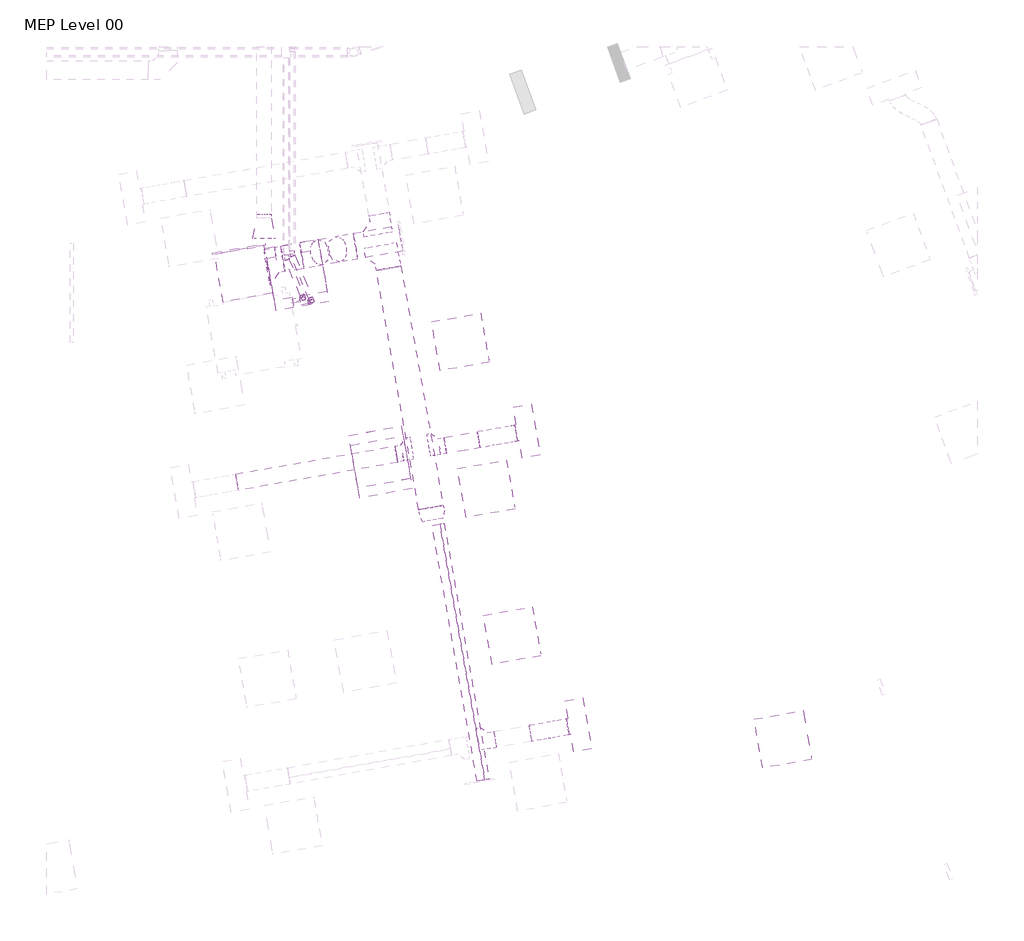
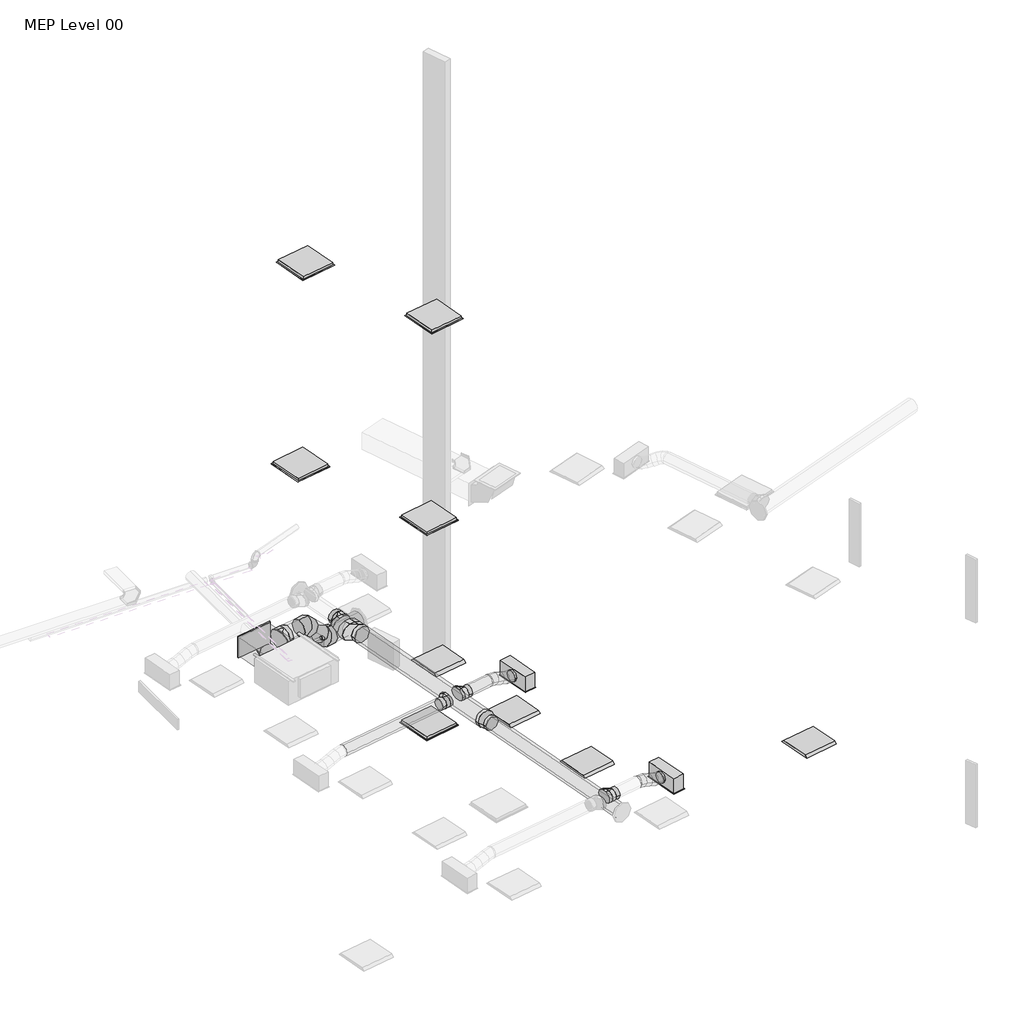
# One storey, part 18 of 33: 10 duct fittings, 10 duct segments, 9 air terminals, 6 pipe fittings, 6 pipe segments, 4 light fixtures.
"""IFC4 building model written with IfcOpenShell, lengths in millimetres."""

from ifc_helpers import new_model, si_unit, point, frame, frame_2d, origin, place, context, project, spatial, polyline, circle_curve, ellipse_curve, trimmed, segment, composite_curve, outline, extrude, transform, mapped, element, save
from ifc_brep_helpers import plane_surface, cylinder_surface, advanced_brep
from components import air_terminal_f10cd946, return_grille_rectangular_hosted_standard_7b12617c, supply_diffuser_with_plenum_linear_slot_hosted_8e4f2f20, dw144_rectangular_blank_end_standard_87489678, dw144_round_segmented_bend_slip_joint_standard_b708e37c, dw144_round_shoe_branch_slip_joint_standard_15a2edd8, dw144_round_shoe_branch_slip_joint_standard_3a899113, dw144_round_shoe_branch_slip_joint_standard_809a1802, dw144_round_shoe_branch_slip_joint_standard_2e838f3e, dw144_round_shoe_branch_slip_joint_standard_78bd87b2, dw144_round_taper_slip_joint_standard_7b2c0993, light_fixture_600x600_230_1c7c1157, elbow_threaded_gmi_standard_b4aa7741, elbow_threaded_gmi_standard_b1050e4a

model = new_model("IFC4")

# Units and contexts
model_context = context("Model", 3, world=origin())
ifc_project = project(units=[si_unit("LENGTHUNIT", "METRE", prefix="MILLI")], contexts=[model_context])

# Site, building, storey
site = spatial("IfcSite", under=ifc_project)
building = spatial("IfcBuilding", under=site)
storey = spatial("IfcBuildingStorey", under=building, Name="MEP Level 00", Elevation=0.0)

# Air terminals
placement = place(None, origin())
air_terminal_shape = air_terminal_f10cd946(model_context)
element("IfcAirTerminal", 1, ObjectType="Supply_Bell_Mouth_Grille : Supply_Bell_Mouth_Grille", at=placement, inside=storey, context=model_context, shape_type="MappedRepresentation", body=[
    mapped(air_terminal_shape, transform((32514.5338805, 6686.9163123, 3067.7250584), x_axis=(0.0, -1.0, 0.0), y_axis=(1.0, 0.0, 0.0), z_axis=(0.0, 0.0, 1.0))),
])
return_grille_rectangular_hosted_standard_shape = return_grille_rectangular_hosted_standard_7b12617c(model_context)
element("IfcAirTerminal", 2, ObjectType="Return Grille - Rectangular - Hosted : Standard", at=placement, inside=storey, context=model_context, shape_type="MappedRepresentation", body=[
    mapped(return_grille_rectangular_hosted_standard_shape, transform((33910.5082617, 3801.8100308, 2800.0), x_axis=(0.9848077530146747, 0.17364817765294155, 0.0), y_axis=(0.17364817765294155, -0.9848077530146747, 0.0), z_axis=(0.0, 0.0, -1.0))),
])
element("IfcAirTerminal", 3, ObjectType="Return Grille - Rectangular - Hosted : Standard", at=placement, inside=storey, context=model_context, shape_type="MappedRepresentation", body=[
    mapped(return_grille_rectangular_hosted_standard_shape, transform((32902.8679835, 6061.1597314, 2800.0), x_axis=(0.9848077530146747, 0.17364817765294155, 0.0), y_axis=(0.17364817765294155, -0.9848077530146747, 0.0), z_axis=(0.0, 0.0, -1.0))),
])
element("IfcAirTerminal", 4, ObjectType="Return Grille - Rectangular - Hosted : Standard", at=placement, inside=storey, context=model_context, shape_type="MappedRepresentation", body=[
    mapped(return_grille_rectangular_hosted_standard_shape, transform((33910.5082617, 3801.8100308, 6700.0), x_axis=(0.9848077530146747, 0.17364817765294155, 0.0), y_axis=(0.17364817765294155, -0.9848077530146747, 0.0), z_axis=(0.0, 0.0, -1.0))),
])
element("IfcAirTerminal", 5, ObjectType="Return Grille - Rectangular - Hosted : Standard", at=placement, inside=storey, context=model_context, shape_type="MappedRepresentation", body=[
    mapped(return_grille_rectangular_hosted_standard_shape, transform((32902.8679835, 6061.1597314, 6700.0), x_axis=(0.9848077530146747, 0.17364817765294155, 0.0), y_axis=(0.17364817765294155, -0.9848077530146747, 0.0), z_axis=(0.0, 0.0, -1.0))),
])
element("IfcAirTerminal", 6, ObjectType="Return Grille - Rectangular - Hosted : Standard", at=placement, inside=storey, context=model_context, shape_type="MappedRepresentation", body=[
    mapped(return_grille_rectangular_hosted_standard_shape, transform((33931.8682503, 3680.8208366, 10600.0), x_axis=(0.9848077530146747, 0.17364817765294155, 0.0), y_axis=(0.17364817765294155, -0.9848077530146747, 0.0), z_axis=(0.0, 0.0, -1.0))),
])
element("IfcAirTerminal", 7, ObjectType="Return Grille - Rectangular - Hosted : Standard", at=placement, inside=storey, context=model_context, shape_type="MappedRepresentation", body=[
    mapped(return_grille_rectangular_hosted_standard_shape, transform((32924.2279721, 5940.1705373, 10600.0), x_axis=(0.9848077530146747, 0.17364817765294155, 0.0), y_axis=(0.17364817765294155, -0.9848077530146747, 0.0), z_axis=(0.0, 0.0, -1.0))),
])
supply_diffuser_with_plenum_linear_slot_hosted_shape = supply_diffuser_with_plenum_linear_slot_hosted_8e4f2f20(model_context)
element("IfcAirTerminal", 8, ObjectType="Supply Diffuser with Plenum - Linear Slot - Hosted : 600mmx193.8mm-200 In Inlet  4-Slot", at=placement, inside=storey, context=model_context, shape_type="MappedRepresentation", body=[
    mapped(supply_diffuser_with_plenum_linear_slot_hosted_shape, transform((35683.1622171, 4114.3767506, 2800.0), x_axis=(0.1736481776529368, -0.9848077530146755, 0.0), y_axis=(-0.9848077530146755, -0.1736481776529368, 0.0), z_axis=(0.0, 0.0, -1.0))),
])
element("IfcAirTerminal", 9, ObjectType="Supply Diffuser with Plenum - Linear Slot - Hosted : 600mmx193.8mm-200 In Inlet  4-Slot", at=placement, inside=storey, context=model_context, shape_type="MappedRepresentation", body=[
    mapped(supply_diffuser_with_plenum_linear_slot_hosted_shape, transform((36308.2956567, 569.0688397, 2800.0), x_axis=(0.1736481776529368, -0.9848077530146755, 0.0), y_axis=(-0.9848077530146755, -0.1736481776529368, 0.0), z_axis=(0.0, 0.0, -1.0))),
])

# Duct fittings
dw144_rectangular_blank_end_standard_shape = dw144_rectangular_blank_end_standard_87489678(model_context)
element("IfcDuctFitting", 10, ObjectType="DW144 Rectangular Blank End : Standard", at=placement, inside=storey, context=model_context, shape_type="MappedRepresentation", body=[
    mapped(dw144_rectangular_blank_end_standard_shape, transform((32213.8986755, 6303.655722, 3469.575), x_axis=(-0.17364817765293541, 0.9848077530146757, 0.0), y_axis=(-0.9848077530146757, -0.17364817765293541, 0.0), z_axis=(0.0, 0.0, 1.0))),
])
dw144_round_segmented_bend_slip_joint_standard_shape = dw144_round_segmented_bend_slip_joint_standard_b708e37c(model_context)
element("IfcDuctFitting", 11, ObjectType="DW144 Round Segmented Bend - Slip Joint : Standard", at=placement, inside=storey, context=model_context, shape_type="MappedRepresentation", body=[
    mapped(dw144_round_segmented_bend_slip_joint_standard_shape, transform((33490.1638401, 6325.8474649, 3072.2088531), x_axis=(0.6963642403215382, 0.12278780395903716, -0.7071067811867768), y_axis=(-0.6963642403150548, -0.1227878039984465, -0.7071067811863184), z_axis=(-0.17364817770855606, 0.9848077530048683, 0.0))),
])
element("IfcDuctFitting", 12, ObjectType="DW144 Round Segmented Bend - Slip Joint : Standard", at=placement, inside=storey, context=model_context, shape_type="MappedRepresentation", body=[
    mapped(dw144_round_segmented_bend_slip_joint_standard_shape, transform((33098.8345779, 6256.8455577, 3469.575), x_axis=(0.9848077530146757, 0.17364817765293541, 0.0), y_axis=(0.0, 0.0, 1.0), z_axis=(0.17364817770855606, -0.9848077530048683, 0.0))),
])
dw144_round_shoe_branch_slip_joint_standard_shape = dw144_round_shoe_branch_slip_joint_standard_15a2edd8(model_context)
element("IfcDuctFitting", 13, ObjectType="DW144 Round Shoe Branch - Slip Joint : Standard", at=placement, inside=storey, context=model_context, shape_type="MappedRepresentation", body=[
    mapped(dw144_round_shoe_branch_slip_joint_standard_shape, transform((35154.4321897, 365.6115785, 3072.2088531), x_axis=(0.9848077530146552, 0.17364817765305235, 0.0), y_axis=(0.17364817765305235, -0.9848077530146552, 0.0), z_axis=(0.0, 0.0, -1.0))),
])
dw144_round_shoe_branch_slip_joint_standard_2_shape = dw144_round_shoe_branch_slip_joint_standard_3a899113(model_context)
element("IfcDuctFitting", 14, ObjectType="DW144 Round Shoe Branch - Slip Joint : Standard", at=placement, inside=storey, context=model_context, shape_type="MappedRepresentation", body=[
    mapped(dw144_round_shoe_branch_slip_joint_standard_2_shape, transform((34258.4766181, 3863.1662405, 3072.2088531), x_axis=(-0.9848077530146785, -0.17364817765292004, 0.0), y_axis=(0.17364817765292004, -0.9848077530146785, 0.0), z_axis=(0.0, 0.0, 1.0))),
])
element("IfcDuctFitting", 15, ObjectType="DW144 Round Shoe Branch - Slip Joint : Standard", at=placement, inside=storey, context=model_context, shape_type="MappedRepresentation", body=[
    mapped(dw144_round_shoe_branch_slip_joint_standard_2_shape, transform((34553.918944, 3915.2606938, 3072.2088531), x_axis=(0.9848077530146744, 0.17364817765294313, 0.0), y_axis=(0.17364817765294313, -0.9848077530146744, 0.0), z_axis=(0.0, 0.0, -1.0))),
])
dw144_round_shoe_branch_slip_joint_standard_3_shape = dw144_round_shoe_branch_slip_joint_standard_809a1802(model_context)
element("IfcDuctFitting", 16, ObjectType="DW144 Round Shoe Branch - Slip Joint : Standard", at=placement, inside=storey, context=model_context, shape_type="MappedRepresentation", body=[
    mapped(dw144_round_shoe_branch_slip_joint_standard_3_shape, transform((32544.0300935, 6159.0185581, 3469.575), x_axis=(0.9848077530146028, 0.17364817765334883, 0.0), y_axis=(-0.17364817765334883, 0.9848077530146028, 0.0), z_axis=(0.0, 0.0, 1.0))),
])
dw144_round_shoe_branch_slip_joint_standard_4_shape = dw144_round_shoe_branch_slip_joint_standard_2e838f3e(model_context)
element("IfcDuctFitting", 17, ObjectType="DW144 Round Shoe Branch - Slip Joint : Standard", at=placement, inside=storey, context=model_context, shape_type="MappedRepresentation", body=[
    mapped(dw144_round_shoe_branch_slip_joint_standard_4_shape, transform((33934.5374354, 6564.1322107, 3072.2088531), x_axis=(-0.17364817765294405, 0.9848077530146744, 0.0), y_axis=(0.9848077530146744, 0.17364817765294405, 0.0), z_axis=(0.0, 0.0, -1.0))),
])
dw144_round_shoe_branch_slip_joint_standard_5_shape = dw144_round_shoe_branch_slip_joint_standard_78bd87b2(model_context)
element("IfcDuctFitting", 18, ObjectType="DW144 Round Shoe Branch - Slip Joint : Standard", at=placement, inside=storey, context=model_context, shape_type="MappedRepresentation", body=[
    mapped(dw144_round_shoe_branch_slip_joint_standard_5_shape, transform((33989.2366113, 6253.9177685, 3072.2088531), x_axis=(0.17364817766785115, -0.9848077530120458, 0.0), y_axis=(0.9848077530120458, 0.17364817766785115, 0.0), z_axis=(0.0, 0.0, 1.0))),
])
dw144_round_taper_slip_joint_standard_shape = dw144_round_taper_slip_joint_standard_7b2c0993(model_context)
element("IfcDuctFitting", 19, ObjectType="DW144 Round Taper - Slip Joint : Standard", at=placement, inside=storey, context=model_context, shape_type="MappedRepresentation", body=[
    mapped(dw144_round_taper_slip_joint_standard_shape, transform((34529.2296476, 3191.465079, 3072.2088531), x_axis=(0.17364817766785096, -0.9848077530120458, 0.0), y_axis=(0.9848077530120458, 0.17364817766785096, 0.0), z_axis=(0.0, 0.0, 1.0))),
])

# Duct segments
element("IfcDuctSegment", 20, ObjectType="DW144 Flanged Med Radius Bend / Shoe Branch", at=placement, inside=storey, context=model_context, shape_type="SweptSolid", body=[
    extrude(outline(polyline([(32611.0155798, 5779.1249874), (32020.130928, 5674.9360808), (31918.4563496, 6251.5612687), (32509.3410014, 6355.7501753), (32611.0155798, 5779.1249874)])), frame((0.0, 0.0, 3294.575), z_axis=(0.0, 0.0, 1.0), x_axis=(1.0, 0.0, 0.0)), (0.0, 0.0, 1.0), 350.0),
])
element("IfcDuctSegment", 21, ObjectType="DW144 Segmented Bend / Shoe Branch", at=placement, inside=storey, context=model_context, shape_type="SweptSolid", body=[
    extrude(outline(composite_curve([segment(trimmed(circle_curve(frame_2d((0.0, 157.5)), 157.5), [point((157.5, 157.5))], [point((0.0, 0.0))], False, "CARTESIAN"), True, "CONTINUOUS"), segment(trimmed(circle_curve(frame_2d((0.0, 157.5)), 157.5), [point((0.0, 0.0))], [point((-157.5, 157.5))], False, "CARTESIAN"), True, "CONTINUOUS"), segment(trimmed(circle_curve(frame_2d((0.0, 157.5)), 157.5), [point((-157.5, 157.5))], [point((0.0, 315.0))], False, "CARTESIAN"), True, "CONTINUOUS"), segment(trimmed(circle_curve(frame_2d((0.0, 157.5)), 157.5), [point((0.0, 315.0))], [point((157.5, 157.5))], False, "CARTESIAN"), True, "CONTINUOUS")], self_intersect=False)), frame((32740.9916441, 6193.7481936, 3627.075), z_axis=(0.9848077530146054, 0.17364817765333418, 0.0), x_axis=(0.17364817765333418, -0.9848077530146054, 0.0)), (0.0, 0.0, 1.0), 232.8859657),
])
element("IfcDuctSegment", 22, ObjectType="DW144 Segmented Bend / Shoe Branch", at=placement, inside=storey, context=model_context, shape_type="SweptSolid", body=[
    extrude(outline(composite_curve([segment(trimmed(circle_curve(frame_2d((0.0, 157.5)), 157.5), [point((-157.5, 157.5))], [point((0.0, 315.0))], False, "CARTESIAN"), True, "CONTINUOUS"), segment(trimmed(circle_curve(frame_2d((0.0, 157.5)), 157.5), [point((0.0, 315.0))], [point((157.5, 157.5))], False, "CARTESIAN"), True, "CONTINUOUS"), segment(trimmed(circle_curve(frame_2d((0.0, 157.5)), 157.5), [point((157.5, 157.5))], [point((0.0, 0.0))], False, "CARTESIAN"), True, "CONTINUOUS"), segment(trimmed(circle_curve(frame_2d((0.0, 157.5)), 157.5), [point((0.0, 0.0))], [point((-157.5, 157.5))], False, "CARTESIAN"), True, "CONTINUOUS")], self_intersect=False)), frame((33618.6588693, 6348.5046055, 3229.7088531), z_axis=(0.9848077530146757, 0.17364817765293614, 0.0), x_axis=(0.17364817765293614, -0.9848077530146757, 0.0)), (0.0, 0.0, 1.0), 550.3875282),
])
element("IfcDuctSegment", 23, ObjectType="DW144 Segmented Bend / Shoe Branch", at=placement, inside=storey, context=model_context, shape_type="SweptSolid", body=[
    extrude(outline(composite_curve([segment(trimmed(circle_curve(frame_2d((1e-07, -157.5)), 157.5), [point((38.1078788, -310.3202853))], [point((-152.8202852, -195.6078788))], False, "CARTESIAN"), True, "CONTINUOUS"), segment(trimmed(circle_curve(frame_2d((1e-07, -157.5)), 157.5), [point((-152.8202852, -195.6078788))], [point((-38.1078787, -4.6797148))], False, "CARTESIAN"), True, "CONTINUOUS"), segment(trimmed(circle_curve(frame_2d((1e-07, -157.5)), 157.5), [point((-38.1078787, -4.6797148))], [point((152.8202853, -119.3921212))], False, "CARTESIAN"), True, "CONTINUOUS"), segment(trimmed(circle_curve(frame_2d((1e-07, -157.5)), 157.5), [point((152.8202853, -119.3921212))], [point((38.1078788, -310.3202853))], False, "CARTESIAN"), True, "CONTINUOUS")], self_intersect=False)), frame((33399.3041336, 6465.0042317, 3191.4165565), z_axis=(-0.6963642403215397, -0.12278780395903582, 0.7071067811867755), x_axis=(0.7176885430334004, -0.11913947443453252, 0.6860968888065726)), (0.0, 0.0, 1.0), 301.0060498),
])
element("IfcDuctSegment", 24, ObjectType="DW144 Segmented Bend / Shoe Branch", at=placement, inside=storey, context=model_context, shape_type="SweptSolid", body=[
    extrude(outline(composite_curve([segment(trimmed(circle_curve(frame_2d((0.0, -125.0)), 125.0), [point((-125.0, -125.0))], [point((0.0, 0.0))], False, "CARTESIAN"), True, "CONTINUOUS"), segment(trimmed(circle_curve(frame_2d((0.0, -125.0)), 125.0), [point((0.0, 0.0))], [point((125.0, -125.0))], False, "CARTESIAN"), True, "CONTINUOUS"), segment(trimmed(circle_curve(frame_2d((0.0, -125.0)), 125.0), [point((125.0, -125.0))], [point((0.0, -250.0))], False, "CARTESIAN"), True, "CONTINUOUS"), segment(trimmed(circle_curve(frame_2d((0.0, -125.0)), 125.0), [point((0.0, -250.0))], [point((-125.0, -125.0))], False, "CARTESIAN"), True, "CONTINUOUS")], self_intersect=False)), frame((35110.8297064, -106.9527609, 2947.2088531), z_axis=(-0.17364817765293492, 0.9848077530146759, 0.0), x_axis=(0.9848077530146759, 0.17364817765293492, 0.0)), (0.0, 0.0, 1.0), 3135.9999815),
])
element("IfcDuctSegment", 25, ObjectType="DW144 Segmented Bend / Shoe Branch", at=placement, inside=storey, context=model_context, shape_type="SweptSolid", body=[
    extrude(outline(composite_curve([segment(trimmed(circle_curve(frame_2d((0.0, 100.0)), 100.0), [point((100.0, 100.0))], [point((0.0, 0.0))], False, "CARTESIAN"), True, "CONTINUOUS"), segment(trimmed(circle_curve(frame_2d((0.0, 100.0)), 100.0), [point((0.0, 0.0))], [point((-100.0, 100.0))], False, "CARTESIAN"), True, "CONTINUOUS"), segment(trimmed(circle_curve(frame_2d((0.0, 100.0)), 100.0), [point((-100.0, 100.0))], [point((0.0, 200.0))], False, "CARTESIAN"), True, "CONTINUOUS"), segment(trimmed(circle_curve(frame_2d((0.0, 100.0)), 100.0), [point((0.0, 200.0))], [point((100.0, 100.0))], False, "CARTESIAN"), True, "CONTINUOUS")], self_intersect=False)), frame((34701.640107, 3941.3079204, 3172.2088531), z_axis=(0.9848077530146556, 0.1736481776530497, 0.0), x_axis=(0.1736481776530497, -0.9848077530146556, 0.0)), (0.0, 0.0, 1.0), 410.0),
])
element("IfcDuctSegment", 26, ObjectType="DW144 Segmented Bend / Shoe Branch", at=placement, inside=storey, context=model_context, shape_type="SweptSolid", body=[
    extrude(outline(composite_curve([segment(trimmed(circle_curve(frame_2d((0.0, -100.0)), 100.0), [point((-100.0, -100.0))], [point((0.0, 0.0))], False, "CARTESIAN"), True, "CONTINUOUS"), segment(trimmed(circle_curve(frame_2d((0.0, -100.0)), 100.0), [point((0.0, 0.0))], [point((100.0, -100.0))], False, "CARTESIAN"), True, "CONTINUOUS"), segment(trimmed(circle_curve(frame_2d((0.0, -100.0)), 100.0), [point((100.0, -100.0))], [point((0.0, -200.0))], False, "CARTESIAN"), True, "CONTINUOUS"), segment(trimmed(circle_curve(frame_2d((0.0, -100.0)), 100.0), [point((0.0, -200.0))], [point((-100.0, -100.0))], False, "CARTESIAN"), True, "CONTINUOUS")], self_intersect=False)), frame((32190.3803368, 3498.5050674, 2972.2088531), z_axis=(0.9848077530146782, 0.17364817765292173, 0.0), x_axis=(0.17364817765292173, -0.9848077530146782, 0.0)), (0.0, 0.0, 1.0), 1950.0),
])
element("IfcDuctSegment", 27, ObjectType="DW144 Segmented Bend / Shoe Branch", at=placement, inside=storey, context=model_context, shape_type="SweptSolid", body=[
    extrude(outline(composite_curve([segment(trimmed(circle_curve(frame_2d((0.0, -150.0)), 150.0), [point((-150.0, -150.0))], [point((0.0, 0.0))], False, "CARTESIAN"), True, "CONTINUOUS"), segment(trimmed(circle_curve(frame_2d((0.0, -150.0)), 150.0), [point((0.0, 0.0))], [point((150.0, -150.0))], False, "CARTESIAN"), True, "CONTINUOUS"), segment(trimmed(circle_curve(frame_2d((0.0, -150.0)), 150.0), [point((150.0, -150.0))], [point((0.0, -300.0))], False, "CARTESIAN"), True, "CONTINUOUS"), segment(trimmed(circle_curve(frame_2d((0.0, -150.0)), 150.0), [point((0.0, -300.0))], [point((-150.0, -150.0))], False, "CARTESIAN"), True, "CONTINUOUS")], self_intersect=False)), frame((34529.2296476, 3191.465079, 2922.2088531), z_axis=(-0.17364817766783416, 0.9848077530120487, 0.0), x_axis=(0.9848077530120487, 0.17364817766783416, 0.0)), (0.0, 0.0, 1.0), 2934.6959585),
])
element("IfcDuctSegment", 28, ObjectType="Flex - Round", at=placement, inside=storey, context=model_context, shape_type="AdvancedBrep", body=[
    advanced_brep(
    [(35088.0464679, 4110.9844485, 3072.2088531), (35105.4112857, 4012.5036732, 2972.2088531), (35122.7761035, 3914.0228979, 3072.2088531), (35105.4112857, 4012.5036732, 3172.2088531), (35103.5017946, 4113.7096396, 3072.2088531), (35111.8909812, 4013.6462184, 2972.2088531), (35138.2314302, 3916.748089, 3072.2088531), (35129.8422436, 4016.8115103, 3172.2088531), (35538.85568, 4190.4742758, 2954.4), (35556.2204978, 4091.9935005, 3054.4), (35573.5853156, 3993.5127252, 2954.4), (35556.2204978, 4091.9935005, 2854.4), (35202.1259438, 4131.0997381, 3053.8012198), (35193.8139242, 4028.0914436, 2956.9184044), (35236.8555793, 3934.1381875, 3053.8012198), (35245.1675989, 4037.146482, 3150.6840352), (35313.451074, 4150.7293622, 3013.3044266), (35297.6027016, 4046.3922053, 2919.1631137), (35348.1807095, 3953.7678116, 3013.3044266), (35364.0290819, 4058.1049684, 3107.4457395), (35424.7762042, 4170.3589862, 2972.8076333), (35416.4641846, 4067.3506917, 2875.9248179), (35459.5058397, 3973.3974356, 2972.8076333), (35467.8178592, 4076.4057301, 3069.6904487), (35523.4003533, 4187.7490847, 2954.4), (35531.7895399, 4087.6856634, 2854.4), (35558.1299888, 3990.7875341, 2954.4), (35549.7408022, 4090.8509553, 3054.4)],
    [
        (0, 1, circle_curve(frame((35105.4112857, 4012.5036732, 3072.2088531), z_axis=(-0.984807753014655, -0.1736481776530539, 0.0), x_axis=(-0.1736481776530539, 0.984807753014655, 0.0)), 100.0)),
        (1, 2, circle_curve(frame((35105.4112857, 4012.5036732, 3072.2088531), z_axis=(-0.984807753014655, -0.1736481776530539, 0.0), x_axis=(-0.1736481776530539, 0.984807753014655, 0.0)), 100.0)),
        (2, 3, circle_curve(frame((35105.4112857, 4012.5036732, 3072.2088531), z_axis=(-0.984807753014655, -0.1736481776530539, 0.0), x_axis=(-0.1736481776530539, 0.984807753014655, 0.0)), 100.0)),
        (3, 0, circle_curve(frame((35105.4112857, 4012.5036732, 3072.2088531), z_axis=(-0.984807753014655, -0.1736481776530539, 0.0), x_axis=(-0.1736481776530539, 0.984807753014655, 0.0)), 100.0)),
        (0, 4),
        (4, 5, ellipse_curve(frame((35120.8666124, 4015.2288643, 3072.2088531), z_axis=(-0.9807428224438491, -0.17293142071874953, 0.09076475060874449), x_axis=(-0.08938583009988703, -0.015761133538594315, -0.9958723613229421)), 100.4144747, 100.0)),
        (5, 1),
        (5, 6, ellipse_curve(frame((35120.8666124, 4015.2288643, 3072.2088531), z_axis=(-0.9807428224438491, -0.17293142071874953, 0.09076475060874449), x_axis=(-0.08938583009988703, -0.015761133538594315, -0.9958723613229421)), 100.4144747, 100.0)),
        (6, 2),
        (6, 7, ellipse_curve(frame((35120.8666124, 4015.2288643, 3072.2088531), z_axis=(-0.9807428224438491, -0.17293142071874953, 0.09076475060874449), x_axis=(-0.08938583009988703, -0.015761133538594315, -0.9958723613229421)), 100.4144747, 100.0)),
        (7, 3),
        (7, 4, ellipse_curve(frame((35120.8666124, 4015.2288643, 3072.2088531), z_axis=(-0.9807428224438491, -0.17293142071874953, 0.09076475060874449), x_axis=(-0.08938583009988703, -0.015761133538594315, -0.9958723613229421)), 100.4144747, 100.0)),
        (8, 9, circle_curve(frame((35556.2204978, 4091.9935005, 2954.4), z_axis=(0.9848077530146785, 0.1736481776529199, 0.0), x_axis=(-0.1736481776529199, 0.9848077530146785, 0.0)), 100.0)),
        (9, 10, circle_curve(frame((35556.2204978, 4091.9935005, 2954.4), z_axis=(0.9848077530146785, 0.1736481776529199, 0.0), x_axis=(-0.1736481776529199, 0.9848077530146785, 0.0)), 100.0)),
        (10, 11, circle_curve(frame((35556.2204978, 4091.9935005, 2954.4), z_axis=(0.9848077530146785, 0.1736481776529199, 0.0), x_axis=(-0.1736481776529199, 0.9848077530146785, 0.0)), 100.0)),
        (11, 8, circle_curve(frame((35556.2204978, 4091.9935005, 2954.4), z_axis=(0.9848077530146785, 0.1736481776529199, 0.0), x_axis=(-0.1736481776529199, 0.9848077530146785, 0.0)), 100.0)),
        (4, 12),
        (12, 13, ellipse_curve(frame((35219.4907615, 4032.6189628, 3053.8012198), z_axis=(-0.9509727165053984, -0.16768214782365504, 0.25987225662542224), x_axis=(-0.2559242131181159, -0.04512634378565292, -0.965643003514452)), 100.3298476, 100.0)),
        (13, 5),
        (13, 14, ellipse_curve(frame((35219.4907615, 4032.6189628, 3053.8012198), z_axis=(-0.9509727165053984, -0.16768214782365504, 0.25987225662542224), x_axis=(-0.2559242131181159, -0.04512634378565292, -0.965643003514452)), 100.3298476, 100.0)),
        (14, 6),
        (14, 15, ellipse_curve(frame((35219.4907615, 4032.6189628, 3053.8012198), z_axis=(-0.9509727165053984, -0.16768214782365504, 0.25987225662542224), x_axis=(-0.2559242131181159, -0.04512634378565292, -0.965643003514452)), 100.3298476, 100.0)),
        (15, 7),
        (15, 12, ellipse_curve(frame((35219.4907615, 4032.6189628, 3053.8012198), z_axis=(-0.9509727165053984, -0.16768214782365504, 0.25987225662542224), x_axis=(-0.2559242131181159, -0.04512634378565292, -0.965643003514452)), 100.3298476, 100.0)),
        (12, 16),
        (16, 17, circle_curve(frame((35330.8158917, 4052.2485869, 3013.3044266), z_axis=(-0.9271109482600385, -0.1634746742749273, 0.337255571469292), x_axis=(-0.17364817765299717, 0.9848077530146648, 0.0)), 100.0)),
        (17, 13),
        (17, 18, circle_curve(frame((35330.8158917, 4052.2485869, 3013.3044266), z_axis=(-0.9271109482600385, -0.1634746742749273, 0.337255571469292), x_axis=(-0.17364817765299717, 0.9848077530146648, 0.0)), 100.0)),
        (18, 14),
        (18, 19, circle_curve(frame((35330.8158917, 4052.2485869, 3013.3044266), z_axis=(-0.9271109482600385, -0.1634746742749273, 0.337255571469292), x_axis=(-0.17364817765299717, 0.9848077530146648, 0.0)), 100.0)),
        (19, 15),
        (19, 16, circle_curve(frame((35330.8158917, 4052.2485869, 3013.3044266), z_axis=(-0.9271109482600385, -0.1634746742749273, 0.337255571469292), x_axis=(-0.17364817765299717, 0.9848077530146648, 0.0)), 100.0)),
        (16, 20),
        (20, 21, ellipse_curve(frame((35442.1410219, 4071.8782109, 2972.8076333), z_axis=(-0.9509727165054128, -0.16768214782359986, 0.2598722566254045), x_axis=(0.25592421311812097, 0.04512634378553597, 0.9656430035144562)), 100.3298476, 100.0)),
        (21, 17),
        (21, 22, ellipse_curve(frame((35442.1410219, 4071.8782109, 2972.8076333), z_axis=(-0.9509727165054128, -0.16768214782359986, 0.2598722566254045), x_axis=(0.25592421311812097, 0.04512634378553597, 0.9656430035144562)), 100.3298476, 100.0)),
        (22, 18),
        (22, 23, ellipse_curve(frame((35442.1410219, 4071.8782109, 2972.8076333), z_axis=(-0.9509727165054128, -0.16768214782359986, 0.2598722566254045), x_axis=(0.25592421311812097, 0.04512634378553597, 0.9656430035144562)), 100.3298476, 100.0)),
        (23, 19),
        (23, 20, ellipse_curve(frame((35442.1410219, 4071.8782109, 2972.8076333), z_axis=(-0.9509727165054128, -0.16768214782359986, 0.2598722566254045), x_axis=(0.25592421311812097, 0.04512634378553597, 0.9656430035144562)), 100.3298476, 100.0)),
        (20, 24),
        (24, 25, ellipse_curve(frame((35540.7651711, 4089.2683094, 2954.4), z_axis=(-0.9807428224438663, -0.1729314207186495, 0.09076475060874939), x_axis=(0.08938583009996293, 0.015761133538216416, 0.9958723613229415)), 100.4144747, 100.0)),
        (25, 21),
        (25, 26, ellipse_curve(frame((35540.7651711, 4089.2683094, 2954.4), z_axis=(-0.9807428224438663, -0.1729314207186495, 0.09076475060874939), x_axis=(0.08938583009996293, 0.015761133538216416, 0.9958723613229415)), 100.4144747, 100.0)),
        (26, 22),
        (26, 27, ellipse_curve(frame((35540.7651711, 4089.2683094, 2954.4), z_axis=(-0.9807428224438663, -0.1729314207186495, 0.09076475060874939), x_axis=(0.08938583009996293, 0.015761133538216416, 0.9958723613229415)), 100.4144747, 100.0)),
        (27, 23),
        (27, 24, ellipse_curve(frame((35540.7651711, 4089.2683094, 2954.4), z_axis=(-0.9807428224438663, -0.1729314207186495, 0.09076475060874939), x_axis=(0.08938583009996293, 0.015761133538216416, 0.9958723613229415)), 100.4144747, 100.0)),
        (24, 8),
        (11, 25),
        (10, 26),
        (9, 27),
    ],
    [
        plane_surface(frame((35105.4112857, 4012.5036732, 3172.2088531), z_axis=(-0.9848077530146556, -0.1736481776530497, 0.0), x_axis=(0.1736481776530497, -0.9848077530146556, 0.0))),
        cylinder_surface(frame((35105.4112857, 4012.5036732, 3072.2088531), z_axis=(-0.984807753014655, -0.1736481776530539, 0.0), x_axis=(-0.1736481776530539, 0.984807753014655, 0.0)), 100.0),
        plane_surface(frame((35556.2204978, 4091.9935005, 3054.4), z_axis=(0.9848077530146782, 0.17364817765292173, 0.0), x_axis=(0.17364817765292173, -0.9848077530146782, 0.0))),
        cylinder_surface(frame((35120.8666124, 4015.2288643, 3072.2088531), z_axis=(-0.9685815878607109, -0.17078706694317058, 0.18078021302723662), x_axis=(-0.1736481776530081, 0.984807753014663, 0.0)), 100.0),
        cylinder_surface(frame((35219.4907615, 4032.6189628, 3053.8012198), z_axis=(-0.9271109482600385, -0.1634746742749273, 0.337255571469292), x_axis=(-0.17364817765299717, 0.9848077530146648, 0.0)), 100.0),
        cylinder_surface(frame((35330.8158917, 4052.2485869, 3013.3044266), z_axis=(-0.9271109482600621, -0.16347467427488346, 0.3372555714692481), x_axis=(-0.17364817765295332, 0.9848077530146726, 0.0)), 100.0),
        cylinder_surface(frame((35442.1410219, 4071.8782109, 2972.8076333), z_axis=(-0.9685815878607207, -0.1707870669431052, 0.18078021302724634), x_axis=(-0.17364817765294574, 0.9848077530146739, 0.0)), 100.0),
        cylinder_surface(frame((35540.7651711, 4089.2683094, 2954.4), z_axis=(-0.9848077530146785, -0.1736481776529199, 0.0), x_axis=(-0.1736481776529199, 0.9848077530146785, 0.0)), 100.0),
    ],
    [
        (0, [[1, 2, 3, 4]]),
        (1, [[-1, 5, 6, 7]]),
        (1, [[-2, -7, 8, 9]]),
        (1, [[-3, -9, 10, 11]]),
        (1, [[-4, -11, 12, -5]]),
        (2, [[13, 14, 15, 16]]),
        (3, [[-6, 17, 18, 19]]),
        (3, [[-8, -19, 20, 21]]),
        (3, [[-10, -21, 22, 23]]),
        (3, [[-12, -23, 24, -17]]),
        (4, [[-18, 25, 26, 27]]),
        (4, [[-20, -27, 28, 29]]),
        (4, [[-22, -29, 30, 31]]),
        (4, [[-24, -31, 32, -25]]),
        (5, [[-26, 33, 34, 35]]),
        (5, [[-28, -35, 36, 37]]),
        (5, [[-30, -37, 38, 39]]),
        (5, [[-32, -39, 40, -33]]),
        (6, [[-34, 41, 42, 43]]),
        (6, [[-36, -43, 44, 45]]),
        (6, [[-38, -45, 46, 47]]),
        (6, [[-40, -47, 48, -41]]),
        (7, [[-42, 49, -16, 50]]),
        (7, [[-44, -50, -15, 51]]),
        (7, [[-46, -51, -14, 52]]),
        (7, [[-48, -52, -13, -49]]),
    ],
),
])
element("IfcDuctSegment", 29, ObjectType="Flex - Round", at=placement, inside=storey, context=model_context, shape_type="AdvancedBrep", body=[
    advanced_brep(
    [(35713.1799075, 565.6765377, 3072.2088531), (35730.5447252, 467.1957624, 2972.2088531), (35747.909543, 368.7149871, 3072.2088531), (35730.5447252, 467.1957624, 3172.2088531), (35728.6352342, 568.4017288, 3072.2088531), (35737.0244208, 468.3383075, 2972.2088531), (35763.3648697, 371.4401782, 3072.2088531), (35754.9756831, 471.5035994, 3172.2088531), (36163.9891196, 645.1663649, 2954.4), (36181.3539373, 546.6855896, 3054.4), (36198.7187551, 448.2048143, 2954.4), (36181.3539373, 546.6855896, 2854.4), (35827.2593833, 585.7918272, 3053.8012198), (35818.9473638, 482.7835327, 2956.9184044), (35861.9890189, 388.8302766, 3053.8012198), (35870.3010384, 491.8385711, 3150.6840352), (35938.5845135, 605.4214513, 3013.3044266), (35922.7361411, 501.0842945, 2919.1631137), (35973.3141491, 408.4599007, 3013.3044266), (35989.1625214, 512.7970575, 3107.4457395), (36049.9096437, 625.0510754, 2972.8076333), (36041.5976242, 522.0427809, 2875.9248179), (36084.6392793, 428.0895248, 2972.8076333), (36092.9512988, 531.0978193, 3069.6904487), (36148.5337929, 642.4411738, 2954.4), (36156.9229795, 542.3777526, 2854.4), (36183.2634284, 445.4796232, 2954.4), (36174.8742418, 545.5430445, 3054.4)],
    [
        (0, 1, circle_curve(frame((35730.5447252, 467.1957624, 3072.2088531), z_axis=(-0.9848077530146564, -0.17364817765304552, 0.0), x_axis=(-0.17364817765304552, 0.9848077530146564, 0.0)), 100.0)),
        (1, 2, circle_curve(frame((35730.5447252, 467.1957624, 3072.2088531), z_axis=(-0.9848077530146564, -0.17364817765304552, 0.0), x_axis=(-0.17364817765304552, 0.9848077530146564, 0.0)), 100.0)),
        (2, 3, circle_curve(frame((35730.5447252, 467.1957624, 3072.2088531), z_axis=(-0.9848077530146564, -0.17364817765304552, 0.0), x_axis=(-0.17364817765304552, 0.9848077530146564, 0.0)), 100.0)),
        (3, 0, circle_curve(frame((35730.5447252, 467.1957624, 3072.2088531), z_axis=(-0.9848077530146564, -0.17364817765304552, 0.0), x_axis=(-0.17364817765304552, 0.9848077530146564, 0.0)), 100.0)),
        (0, 4),
        (4, 5, ellipse_curve(frame((35746.000052, 469.9209535, 3072.2088531), z_axis=(-0.9807428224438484, -0.17293142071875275, 0.09076475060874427), x_axis=(-0.08938583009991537, -0.015761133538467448, -0.9958723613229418)), 100.4144747, 100.0)),
        (5, 1),
        (5, 6, ellipse_curve(frame((35746.000052, 469.9209535, 3072.2088531), z_axis=(-0.9807428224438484, -0.17293142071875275, 0.09076475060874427), x_axis=(-0.08938583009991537, -0.015761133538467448, -0.9958723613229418)), 100.4144747, 100.0)),
        (6, 2),
        (6, 7, ellipse_curve(frame((35746.000052, 469.9209535, 3072.2088531), z_axis=(-0.9807428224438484, -0.17293142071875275, 0.09076475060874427), x_axis=(-0.08938583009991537, -0.015761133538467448, -0.9958723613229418)), 100.4144747, 100.0)),
        (7, 3),
        (7, 4, ellipse_curve(frame((35746.000052, 469.9209535, 3072.2088531), z_axis=(-0.9807428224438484, -0.17293142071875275, 0.09076475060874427), x_axis=(-0.08938583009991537, -0.015761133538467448, -0.9958723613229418)), 100.4144747, 100.0)),
        (8, 9, circle_curve(frame((36181.3539373, 546.6855896, 2954.4), z_axis=(0.9848077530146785, 0.17364817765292, 0.0), x_axis=(-0.17364817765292, 0.9848077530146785, 0.0)), 100.0)),
        (9, 10, circle_curve(frame((36181.3539373, 546.6855896, 2954.4), z_axis=(0.9848077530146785, 0.17364817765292, 0.0), x_axis=(-0.17364817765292, 0.9848077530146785, 0.0)), 100.0)),
        (10, 11, circle_curve(frame((36181.3539373, 546.6855896, 2954.4), z_axis=(0.9848077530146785, 0.17364817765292, 0.0), x_axis=(-0.17364817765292, 0.9848077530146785, 0.0)), 100.0)),
        (11, 8, circle_curve(frame((36181.3539373, 546.6855896, 2954.4), z_axis=(0.9848077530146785, 0.17364817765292, 0.0), x_axis=(-0.17364817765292, 0.9848077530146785, 0.0)), 100.0)),
        (4, 12),
        (12, 13, ellipse_curve(frame((35844.6242011, 487.3110519, 3053.8012198), z_axis=(-0.9509727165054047, -0.16768214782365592, 0.2598722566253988), x_axis=(-0.25592421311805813, -0.04512634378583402, -0.965643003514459)), 100.3298476, 100.0)),
        (13, 5),
        (13, 14, ellipse_curve(frame((35844.6242011, 487.3110519, 3053.8012198), z_axis=(-0.9509727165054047, -0.16768214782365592, 0.2598722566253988), x_axis=(-0.25592421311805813, -0.04512634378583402, -0.965643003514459)), 100.3298476, 100.0)),
        (14, 6),
        (14, 15, ellipse_curve(frame((35844.6242011, 487.3110519, 3053.8012198), z_axis=(-0.9509727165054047, -0.16768214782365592, 0.2598722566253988), x_axis=(-0.25592421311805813, -0.04512634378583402, -0.965643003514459)), 100.3298476, 100.0)),
        (15, 7),
        (15, 12, ellipse_curve(frame((35844.6242011, 487.3110519, 3053.8012198), z_axis=(-0.9509727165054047, -0.16768214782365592, 0.2598722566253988), x_axis=(-0.25592421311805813, -0.04512634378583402, -0.965643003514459)), 100.3298476, 100.0)),
        (12, 16),
        (16, 17, circle_curve(frame((35955.9493313, 506.940676, 3013.3044266), z_axis=(-0.9271109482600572, -0.16347467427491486, 0.3372555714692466), x_axis=(-0.17364817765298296, 0.9848077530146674, 0.0)), 100.0)),
        (17, 13),
        (17, 18, circle_curve(frame((35955.9493313, 506.940676, 3013.3044266), z_axis=(-0.9271109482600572, -0.16347467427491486, 0.3372555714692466), x_axis=(-0.17364817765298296, 0.9848077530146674, 0.0)), 100.0)),
        (18, 14),
        (18, 19, circle_curve(frame((35955.9493313, 506.940676, 3013.3044266), z_axis=(-0.9271109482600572, -0.16347467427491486, 0.3372555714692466), x_axis=(-0.17364817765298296, 0.9848077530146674, 0.0)), 100.0)),
        (19, 15),
        (19, 16, circle_curve(frame((35955.9493313, 506.940676, 3013.3044266), z_axis=(-0.9271109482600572, -0.16347467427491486, 0.3372555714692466), x_axis=(-0.17364817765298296, 0.9848077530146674, 0.0)), 100.0)),
        (16, 20),
        (20, 21, ellipse_curve(frame((36067.2744615, 526.5703001, 2972.8076333), z_axis=(-0.9509727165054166, -0.1676821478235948, 0.2598722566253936), x_axis=(0.2559242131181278, 0.04512634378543, 0.9656430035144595)), 100.3298476, 100.0)),
        (21, 17),
        (21, 22, ellipse_curve(frame((36067.2744615, 526.5703001, 2972.8076333), z_axis=(-0.9509727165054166, -0.1676821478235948, 0.2598722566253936), x_axis=(0.2559242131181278, 0.04512634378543, 0.9656430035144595)), 100.3298476, 100.0)),
        (22, 18),
        (22, 23, ellipse_curve(frame((36067.2744615, 526.5703001, 2972.8076333), z_axis=(-0.9509727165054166, -0.1676821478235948, 0.2598722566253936), x_axis=(0.2559242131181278, 0.04512634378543, 0.9656430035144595)), 100.3298476, 100.0)),
        (23, 19),
        (23, 20, ellipse_curve(frame((36067.2744615, 526.5703001, 2972.8076333), z_axis=(-0.9509727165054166, -0.1676821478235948, 0.2598722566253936), x_axis=(0.2559242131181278, 0.04512634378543, 0.9656430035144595)), 100.3298476, 100.0)),
        (20, 24),
        (24, 25, ellipse_curve(frame((36165.8986106, 543.9603985, 2954.4), z_axis=(-0.9807428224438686, -0.17293142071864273, 0.09076475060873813), x_axis=(0.08938583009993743, 0.01576113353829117, 0.9958723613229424)), 100.4144747, 100.0)),
        (25, 21),
        (25, 26, ellipse_curve(frame((36165.8986106, 543.9603985, 2954.4), z_axis=(-0.9807428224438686, -0.17293142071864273, 0.09076475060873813), x_axis=(0.08938583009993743, 0.01576113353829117, 0.9958723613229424)), 100.4144747, 100.0)),
        (26, 22),
        (26, 27, ellipse_curve(frame((36165.8986106, 543.9603985, 2954.4), z_axis=(-0.9807428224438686, -0.17293142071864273, 0.09076475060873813), x_axis=(0.08938583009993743, 0.01576113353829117, 0.9958723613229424)), 100.4144747, 100.0)),
        (27, 23),
        (27, 24, ellipse_curve(frame((36165.8986106, 543.9603985, 2954.4), z_axis=(-0.9807428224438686, -0.17293142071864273, 0.09076475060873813), x_axis=(0.08938583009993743, 0.01576113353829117, 0.9958723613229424)), 100.4144747, 100.0)),
        (24, 8),
        (11, 25),
        (10, 26),
        (9, 27),
    ],
    [
        plane_surface(frame((35730.5447252, 467.1957624, 3172.2088531), z_axis=(-0.9848077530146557, -0.17364817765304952, 0.0), x_axis=(0.17364817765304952, -0.9848077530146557, 0.0))),
        cylinder_surface(frame((35730.5447252, 467.1957624, 3072.2088531), z_axis=(-0.9848077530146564, -0.17364817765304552, 0.0), x_axis=(-0.17364817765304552, 0.9848077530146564, 0.0)), 100.0),
        plane_surface(frame((36181.3539373, 546.6855896, 3054.4), z_axis=(0.9848077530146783, 0.1736481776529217, 0.0), x_axis=(0.1736481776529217, -0.9848077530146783, 0.0))),
        cylinder_surface(frame((35746.000052, 469.9209535, 3072.2088531), z_axis=(-0.9685815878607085, -0.17078706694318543, 0.18078021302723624), x_axis=(-0.1736481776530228, 0.9848077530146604, 0.0)), 100.0),
        cylinder_surface(frame((35844.6242011, 487.3110519, 3053.8012198), z_axis=(-0.9271109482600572, -0.16347467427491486, 0.3372555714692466), x_axis=(-0.17364817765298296, 0.9848077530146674, 0.0)), 100.0),
        cylinder_surface(frame((35955.9493313, 506.940676, 3013.3044266), z_axis=(-0.9271109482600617, -0.16347467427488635, 0.3372555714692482), x_axis=(-0.17364817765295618, 0.984807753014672, 0.0)), 100.0),
        cylinder_surface(frame((36067.2744615, 526.5703001, 2972.8076333), z_axis=(-0.9685815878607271, -0.17078706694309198, 0.18078021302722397), x_axis=(-0.17364817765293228, 0.9848077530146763, 0.0)), 100.0),
        cylinder_surface(frame((36165.8986106, 543.9603985, 2954.4), z_axis=(-0.9848077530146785, -0.17364817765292, 0.0), x_axis=(-0.17364817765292, 0.9848077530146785, 0.0)), 100.0),
    ],
    [
        (0, [[1, 2, 3, 4]]),
        (1, [[-1, 5, 6, 7]]),
        (1, [[-2, -7, 8, 9]]),
        (1, [[-3, -9, 10, 11]]),
        (1, [[-4, -11, 12, -5]]),
        (2, [[13, 14, 15, 16]]),
        (3, [[-6, 17, 18, 19]]),
        (3, [[-8, -19, 20, 21]]),
        (3, [[-10, -21, 22, 23]]),
        (3, [[-12, -23, 24, -17]]),
        (4, [[-18, 25, 26, 27]]),
        (4, [[-20, -27, 28, 29]]),
        (4, [[-22, -29, 30, 31]]),
        (4, [[-24, -31, 32, -25]]),
        (5, [[-26, 33, 34, 35]]),
        (5, [[-28, -35, 36, 37]]),
        (5, [[-30, -37, 38, 39]]),
        (5, [[-32, -39, 40, -33]]),
        (6, [[-34, 41, 42, 43]]),
        (6, [[-36, -43, 44, 45]]),
        (6, [[-38, -45, 46, 47]]),
        (6, [[-40, -47, 48, -41]]),
        (7, [[-42, 49, -16, 50]]),
        (7, [[-44, -50, -15, 51]]),
        (7, [[-46, -51, -14, 52]]),
        (7, [[-48, -52, -13, -49]]),
    ],
),
])

# Light fixtures
light_fixture_600x600_230_shape = light_fixture_600x600_230_1c7c1157(model_context)
element("IfcLightFixture", 30, ObjectType="ELEKTRA Recessed Lighting Fixture : 600x600 - 230", at=placement, inside=storey, context=model_context, shape_type="MappedRepresentation", body=[
    mapped(light_fixture_600x600_230_shape, transform((38532.6752979, 47.4030351, 2800.0), x_axis=(0.9848077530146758, 0.17364817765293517, 0.0), y_axis=(0.17364817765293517, -0.9848077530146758, 0.0), z_axis=(0.0, 0.0, -1.0))),
])
element("IfcLightFixture", 31, ObjectType="ELEKTRA Recessed Lighting Fixture : 600x600 - 230", at=placement, inside=storey, context=model_context, shape_type="MappedRepresentation", body=[
    mapped(light_fixture_600x600_230_shape, transform((35265.6853191, 1299.1124575, 2800.0), x_axis=(0.9848077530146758, 0.17364817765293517, 0.0), y_axis=(0.17364817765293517, -0.9848077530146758, 0.0), z_axis=(0.0, 0.0, -1.0))),
])
element("IfcLightFixture", 32, ObjectType="ELEKTRA Recessed Lighting Fixture : 600x600 - 230", at=placement, inside=storey, context=model_context, shape_type="MappedRepresentation", body=[
    mapped(light_fixture_600x600_230_shape, transform((34953.1185993, 3071.766413, 2800.0), x_axis=(0.9848077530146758, 0.17364817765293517, 0.0), y_axis=(0.17364817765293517, -0.9848077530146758, 0.0), z_axis=(0.0, 0.0, -1.0))),
])
element("IfcLightFixture", 33, ObjectType="ELEKTRA Recessed Lighting Fixture : 600x600 - 230", at=placement, inside=storey, context=model_context, shape_type="MappedRepresentation", body=[
    mapped(light_fixture_600x600_230_shape, transform((34640.5518795, 4844.4203684, 2800.0), x_axis=(0.9848077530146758, 0.17364817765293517, 0.0), y_axis=(0.17364817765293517, -0.9848077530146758, 0.0), z_axis=(0.0, 0.0, -1.0))),
])

# Pipe fittings
elbow_threaded_gmi_standard_shape = elbow_threaded_gmi_standard_b4aa7741(model_context)
element("IfcPipeFitting", 34, ObjectType="Elbow - Threaded - GMI : Standard", at=placement, inside=storey, context=model_context, shape_type="MappedRepresentation", body=[
    mapped(elbow_threaded_gmi_standard_shape, transform((33091.3143524, 5683.2717682, 2893.9343179), x_axis=(0.38268343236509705, -0.9238795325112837, 0.0), y_axis=(0.0, 0.0, 1.0), z_axis=(-0.9238795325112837, -0.38268343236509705, 0.0))),
])
element("IfcPipeFitting", 35, ObjectType="Elbow - Threaded - GMI : Standard", at=placement, inside=storey, context=model_context, shape_type="MappedRepresentation", body=[
    mapped(elbow_threaded_gmi_standard_shape, transform((32989.6157295, 5716.923229, 2980.0), x_axis=(0.38268343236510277, -0.9238795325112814, 0.0), y_axis=(0.0, 0.0, 1.0), z_axis=(-0.9238795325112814, -0.38268343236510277, 0.0))),
])
element("IfcPipeFitting", 36, ObjectType="Elbow - Threaded - GMI : Standard", at=placement, inside=storey, context=model_context, shape_type="MappedRepresentation", body=[
    mapped(elbow_threaded_gmi_standard_shape, transform((33091.3143524, 5683.2717682, 3596.575), x_axis=(0.0, 0.0, 1.0), y_axis=(-0.9848077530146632, -0.17364817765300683, 0.0), z_axis=(0.17364817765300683, -0.9848077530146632, 0.0))),
])
element("IfcPipeFitting", 37, ObjectType="Elbow - Threaded - GMI : Standard", at=placement, inside=storey, context=model_context, shape_type="MappedRepresentation", body=[
    mapped(elbow_threaded_gmi_standard_shape, transform((32989.6157295, 5716.923229, 3317.175), x_axis=(0.0, 0.0, 1.0), y_axis=(-0.9848077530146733, -0.1736481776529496, 0.0), z_axis=(0.1736481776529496, -0.9848077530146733, 0.0))),
])
elbow_threaded_gmi_standard_2_shape = elbow_threaded_gmi_standard_b1050e4a(model_context)
element("IfcPipeFitting", 38, ObjectType="Elbow - Threaded - GMI : Standard", at=placement, inside=storey, context=model_context, shape_type="MappedRepresentation", body=[
    mapped(elbow_threaded_gmi_standard_2_shape, transform((32783.0709173, 6215.566516, 2980.0), x_axis=(0.0, -1.0, 0.0), y_axis=(1.0, 0.0, 0.0), z_axis=(0.0, 0.0, 1.0))),
])
element("IfcPipeFitting", 39, ObjectType="Elbow - Threaded - GMI : Standard", at=placement, inside=storey, context=model_context, shape_type="MappedRepresentation", body=[
    mapped(elbow_threaded_gmi_standard_2_shape, transform((32852.6203975, 6259.5299513, 2893.9343179), x_axis=(0.0, -1.0, 0.0), y_axis=(1.0, 0.0, 0.0), z_axis=(0.0, 0.0, 1.0))),
])

# Pipe segments
element("IfcPipeSegment", 40, ObjectType="Carbon Steel - Threaded", at=placement, inside=storey, context=model_context, shape_type="SweptSolid", body=[
    extrude(outline(composite_curve([segment(trimmed(circle_curve(frame_2d((0.0, -21.45)), 21.45), [point((-21.45, -21.45))], [point((0.0, 0.0))], False, "CARTESIAN"), True, "CONTINUOUS"), segment(trimmed(circle_curve(frame_2d((0.0, -21.45)), 21.45), [point((0.0, 0.0))], [point((21.4499999, -21.45))], False, "CARTESIAN"), True, "CONTINUOUS"), segment(trimmed(circle_curve(frame_2d((0.0, -21.45)), 21.45), [point((21.4499999, -21.45))], [point((0.0, -42.9))], False, "CARTESIAN"), True, "CONTINUOUS"), segment(trimmed(circle_curve(frame_2d((0.0, -21.45)), 21.45), [point((0.0, -42.9))], [point((-21.45, -21.45))], False, "CARTESIAN"), True, "CONTINUOUS")], self_intersect=False)), frame((32972.3949751, 5758.497808, 2958.55), z_axis=(-0.38268343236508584, 0.9238795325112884, 0.0), x_axis=(0.9238795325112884, 0.38268343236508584, 0.0)), (0.0, 0.0, 1.0), 461.7276046),
])
element("IfcPipeSegment", 41, ObjectType="Carbon Steel - Threaded", at=placement, inside=storey, context=model_context, shape_type="SweptSolid", body=[
    extrude(outline(composite_curve([segment(trimmed(circle_curve(frame_2d((0.0, -21.45)), 21.45), [point((-21.45, -21.45))], [point((0.0, 0.0))], False, "CARTESIAN"), True, "CONTINUOUS"), segment(trimmed(circle_curve(frame_2d((0.0, -21.45)), 21.45), [point((0.0, 0.0))], [point((21.45, -21.45))], False, "CARTESIAN"), True, "CONTINUOUS"), segment(trimmed(circle_curve(frame_2d((0.0, -21.45)), 21.45), [point((21.45, -21.45))], [point((0.0, -42.9))], False, "CARTESIAN"), True, "CONTINUOUS"), segment(trimmed(circle_curve(frame_2d((0.0, -21.45)), 21.45), [point((0.0, -42.9))], [point((-21.45, -21.45))], False, "CARTESIAN"), True, "CONTINUOUS")], self_intersect=False)), frame((33074.0935979, 5724.8463472, 2872.4843179), z_axis=(-0.38268343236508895, 0.9238795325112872, 0.0), x_axis=(0.9238795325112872, 0.38268343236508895, 0.0)), (0.0, 0.0, 1.0), 545.7373627),
])
element("IfcPipeSegment", 42, ObjectType="Carbon Steel - Threaded", at=placement, inside=storey, context=model_context, shape_type="SweptSolid", body=[
    extrude(outline(composite_curve([segment(trimmed(circle_curve(frame_2d((33091.3143524, 5683.2717682)), 21.45), [point((33069.8643524, 5683.2717682))], [point((33091.3143524, 5704.7217682))], False, "CARTESIAN"), True, "CONTINUOUS"), segment(trimmed(circle_curve(frame_2d((33091.3143524, 5683.2717682)), 21.45), [point((33091.3143524, 5704.7217682))], [point((33112.7643524, 5683.2717682))], False, "CARTESIAN"), True, "CONTINUOUS"), segment(trimmed(circle_curve(frame_2d((33091.3143524, 5683.2717682)), 21.45), [point((33112.7643524, 5683.2717682))], [point((33091.3143524, 5661.8217682))], False, "CARTESIAN"), True, "CONTINUOUS"), segment(trimmed(circle_curve(frame_2d((33091.3143524, 5683.2717682)), 21.45), [point((33091.3143524, 5661.8217682))], [point((33069.8643524, 5683.2717682))], False, "CARTESIAN"), True, "CONTINUOUS")], self_intersect=False)), frame((0.0, 0.0, 2938.9343179), z_axis=(0.0, 0.0, 1.0), x_axis=(1.0, 0.0, 0.0)), (0.0, 0.0, 1.0), 612.6406821),
])
element("IfcPipeSegment", 43, ObjectType="Carbon Steel - Threaded", at=placement, inside=storey, context=model_context, shape_type="SweptSolid", body=[
    extrude(outline(composite_curve([segment(trimmed(circle_curve(frame_2d((32989.6157295, 5716.923229)), 21.45), [point((32968.1657295, 5716.923229))], [point((32989.6157295, 5738.373229))], False, "CARTESIAN"), True, "CONTINUOUS"), segment(trimmed(circle_curve(frame_2d((32989.6157295, 5716.923229)), 21.45), [point((32989.6157295, 5738.373229))], [point((33011.0657295, 5716.923229))], False, "CARTESIAN"), True, "CONTINUOUS"), segment(trimmed(circle_curve(frame_2d((32989.6157295, 5716.923229)), 21.45), [point((33011.0657295, 5716.923229))], [point((32989.6157295, 5695.473229))], False, "CARTESIAN"), True, "CONTINUOUS"), segment(trimmed(circle_curve(frame_2d((32989.6157295, 5716.923229)), 21.45), [point((32989.6157295, 5695.473229))], [point((32968.1657295, 5716.923229))], False, "CARTESIAN"), True, "CONTINUOUS")], self_intersect=False)), frame((0.0, 0.0, 3025.0), z_axis=(0.0, 0.0, 1.0), x_axis=(1.0, 0.0, 0.0)), (0.0, 0.0, 1.0), 247.175),
])
element("IfcPipeSegment", 44, ObjectType="Carbon Steel - Threaded", at=placement, inside=storey, context=model_context, shape_type="SweptSolid", body=[
    extrude(outline(composite_curve([segment(trimmed(circle_curve(frame_2d((0.0, -21.45)), 21.45), [point((-21.45, -21.45))], [point((0.0, 0.0))], False, "CARTESIAN"), True, "CONTINUOUS"), segment(trimmed(circle_curve(frame_2d((0.0, -21.45)), 21.45), [point((0.0, 0.0))], [point((21.45, -21.45))], False, "CARTESIAN"), True, "CONTINUOUS"), segment(trimmed(circle_curve(frame_2d((0.0, -21.45)), 21.45), [point((21.45, -21.45))], [point((0.0, -42.9))], False, "CARTESIAN"), True, "CONTINUOUS"), segment(trimmed(circle_curve(frame_2d((0.0, -21.45)), 21.45), [point((0.0, -42.9))], [point((-21.45, -21.45))], False, "CARTESIAN"), True, "CONTINUOUS")], self_intersect=False)), frame((32862.9230279, 5694.5838875, 3295.725), z_axis=(0.9848077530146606, 0.17364817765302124, 0.0), x_axis=(0.17364817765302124, -0.9848077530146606, 0.0)), (0.0, 0.0, 1.0), 83.6471408),
])
element("IfcPipeSegment", 45, ObjectType="Carbon Steel - Threaded", at=placement, inside=storey, context=model_context, shape_type="SweptSolid", body=[
    extrude(outline(composite_curve([segment(trimmed(circle_curve(frame_2d((0.0, -21.45)), 21.45), [point((-21.45, -21.45))], [point((0.0, 0.0))], False, "CARTESIAN"), True, "CONTINUOUS"), segment(trimmed(circle_curve(frame_2d((0.0, -21.45)), 21.45), [point((0.0, 0.0))], [point((21.45, -21.45))], False, "CARTESIAN"), True, "CONTINUOUS"), segment(trimmed(circle_curve(frame_2d((0.0, -21.45)), 21.45), [point((21.45, -21.45))], [point((0.0, -42.9))], False, "CARTESIAN"), True, "CONTINUOUS"), segment(trimmed(circle_curve(frame_2d((0.0, -21.45)), 21.45), [point((0.0, -42.9))], [point((-21.45, -21.45))], False, "CARTESIAN"), True, "CONTINUOUS")], self_intersect=False)), frame((32871.7443553, 5644.5556536, 3575.125), z_axis=(0.9848077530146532, 0.17364817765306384, 0.0), x_axis=(0.17364817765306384, -0.9848077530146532, 0.0)), (0.0, 0.0, 1.0), 177.9572182),
])

save(model, "model.ifc")
